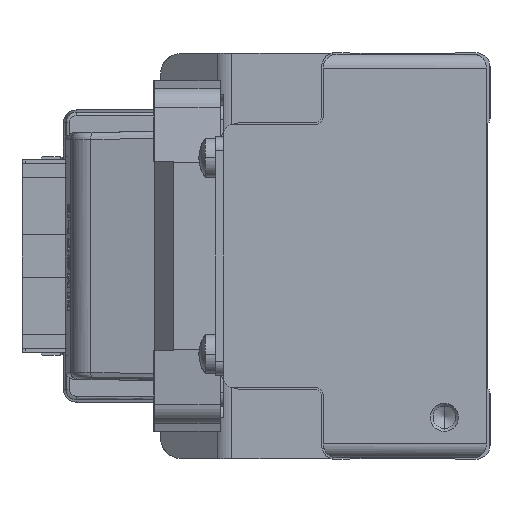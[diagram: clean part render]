
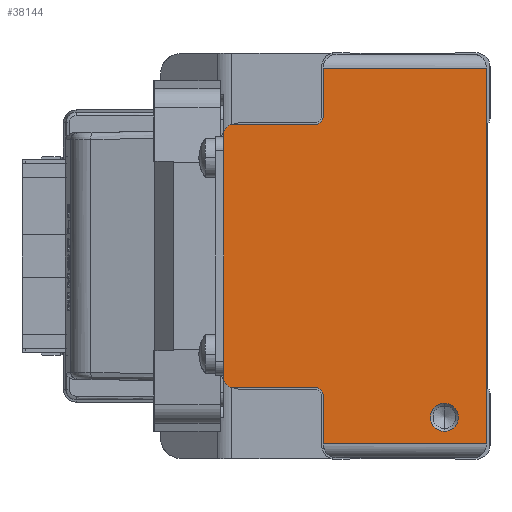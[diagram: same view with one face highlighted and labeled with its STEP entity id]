
A CAD part, left-side view. The second image highlights one B-rep face of the part: STEP entity #38144.
In plain terms, the highlighted planar face has unit normal (-1, 0, 0) as drawn and (0, 0, 1) by its records, which use the part's own axes.
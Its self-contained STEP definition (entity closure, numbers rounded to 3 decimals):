
#304 = DIRECTION ( 'NONE',  ( 1., 0., 0. ) ) ;
#404 = CIRCLE ( 'NONE', #18191, 2. ) ;
#738 = ORIENTED_EDGE ( 'NONE', *, *, #35660, .T. ) ;
#866 = DIRECTION ( 'NONE',  ( -1., 0., 0. ) ) ;
#2073 = EDGE_CURVE ( 'NONE', #8165, #43744, #28126, .T. ) ;
#2373 = EDGE_LOOP ( 'NONE', ( #11033, #39516, #33303, #14689, #42266, #30841, #24406, #9648, #738, #32640, #28398, #3628 ) ) ;
#2484 = EDGE_CURVE ( 'NONE', #28362, #5346, #43441, .T. ) ;
#3398 = DIRECTION ( 'NONE',  ( 0., 1., 0. ) ) ;
#3628 = ORIENTED_EDGE ( 'NONE', *, *, #30310, .T. ) ;
#3681 = CARTESIAN_POINT ( 'NONE',  ( 17.3, 38., 670. ) ) ;
#3977 = EDGE_CURVE ( 'NONE', #24214, #43744, #42101, .T. ) ;
#4496 = VECTOR ( 'NONE', #3398, 1000. ) ;
#4511 = FACE_BOUND ( 'NONE', #26112, .T. ) ;
#4710 = AXIS2_PLACEMENT_3D ( 'NONE', #34639, #8311, #25060 ) ;
#4853 = DIRECTION ( 'NONE',  ( 1., 0., 0. ) ) ;
#5295 = DIRECTION ( 'NONE',  ( 0., -1., 0. ) ) ;
#5346 = VERTEX_POINT ( 'NONE', #19223 ) ;
#5436 = LINE ( 'NONE', #9476, #13131 ) ;
#6149 = EDGE_CURVE ( 'NONE', #30631, #11827, #37993, .T. ) ;
#6267 = CARTESIAN_POINT ( 'NONE',  ( -21., 6.5, 670. ) ) ;
#6642 = CARTESIAN_POINT ( 'NONE',  ( 19.8, 23.8, 670. ) ) ;
#7095 = DIRECTION ( 'NONE',  ( -1., 0., 0. ) ) ;
#7326 = DIRECTION ( 'NONE',  ( 0., 0., 1. ) ) ;
#7403 = DIRECTION ( 'NONE',  ( 0., -1., 0. ) ) ;
#8165 = VERTEX_POINT ( 'NONE', #29886 ) ;
#8311 = DIRECTION ( 'NONE',  ( 0., 0., 1. ) ) ;
#9258 = ORIENTED_EDGE ( 'NONE', *, *, #2484, .T. ) ;
#9476 = CARTESIAN_POINT ( 'NONE',  ( -26.8, 24., 670. ) ) ;
#9648 = ORIENTED_EDGE ( 'NONE', *, *, #34295, .F. ) ;
#10265 = LINE ( 'NONE', #26763, #34329 ) ;
#10597 = CARTESIAN_POINT ( 'NONE',  ( -19.8, 24.8, 670. ) ) ;
#11033 = ORIENTED_EDGE ( 'NONE', *, *, #6149, .T. ) ;
#11753 = CARTESIAN_POINT ( 'NONE',  ( -19.8, 23.8, 670. ) ) ;
#11827 = VERTEX_POINT ( 'NONE', #17962 ) ;
#11926 = ORIENTED_EDGE ( 'NONE', *, *, #23326, .T. ) ;
#12878 = CARTESIAN_POINT ( 'NONE',  ( -23., 6.5, 670. ) ) ;
#13131 = VECTOR ( 'NONE', #26223, 1000. ) ;
#13230 = VECTOR ( 'NONE', #7403, 1000. ) ;
#14689 = ORIENTED_EDGE ( 'NONE', *, *, #20473, .T. ) ;
#14820 = CARTESIAN_POINT ( 'NONE',  ( 18.8, 36.5, 670. ) ) ;
#15407 = AXIS2_PLACEMENT_3D ( 'NONE', #19699, #26861, #40209 ) ;
#15561 = LINE ( 'NONE', #43171, #40759 ) ;
#15672 = EDGE_CURVE ( 'NONE', #8165, #39737, #10265, .T. ) ;
#16787 = VERTEX_POINT ( 'NONE', #27392 ) ;
#17661 = VERTEX_POINT ( 'NONE', #14820 ) ;
#17811 = LINE ( 'NONE', #31402, #27968 ) ;
#17962 = CARTESIAN_POINT ( 'NONE',  ( -18.8, 24.8, 670. ) ) ;
#18191 = AXIS2_PLACEMENT_3D ( 'NONE', #42588, #18958, #28368 ) ;
#18260 = CARTESIAN_POINT ( 'NONE',  ( -26.8, 0.5, 670. ) ) ;
#18342 = FACE_OUTER_BOUND ( 'NONE', #2373, .T. ) ;
#18958 = DIRECTION ( 'NONE',  ( 0., 0., -1. ) ) ;
#19186 = CARTESIAN_POINT ( 'NONE',  ( -18.8, 36.5, 670. ) ) ;
#19223 = CARTESIAN_POINT ( 'NONE',  ( -25., 6.5, 670. ) ) ;
#19530 = DIRECTION ( 'NONE',  ( -1., 0., 0. ) ) ;
#19699 = CARTESIAN_POINT ( 'NONE',  ( -17.3, 36.5, 670. ) ) ;
#19910 = DIRECTION ( 'NONE',  ( 0., 0., 1. ) ) ;
#20099 = CIRCLE ( 'NONE', #20852, 1. ) ;
#20473 = EDGE_CURVE ( 'NONE', #16787, #24214, #5436, .T. ) ;
#20852 = AXIS2_PLACEMENT_3D ( 'NONE', #42312, #7326, #20954 ) ;
#20954 = DIRECTION ( 'NONE',  ( 1., 0., 0. ) ) ;
#22125 = VECTOR ( 'NONE', #5295, 1000. ) ;
#22550 = VERTEX_POINT ( 'NONE', #3681 ) ;
#22881 = AXIS2_PLACEMENT_3D ( 'NONE', #23556, #30700, #33577 ) ;
#23094 = DIRECTION ( 'NONE',  ( 0., 0., -1. ) ) ;
#23326 = EDGE_CURVE ( 'NONE', #5346, #28362, #404, .T. ) ;
#23556 = CARTESIAN_POINT ( 'NONE',  ( 17.3, 36.5, 670. ) ) ;
#23791 = VECTOR ( 'NONE', #4853, 1000. ) ;
#23966 = CIRCLE ( 'NONE', #15407, 1.5 ) ;
#24214 = VERTEX_POINT ( 'NONE', #37079 ) ;
#24406 = ORIENTED_EDGE ( 'NONE', *, *, #15672, .T. ) ;
#24974 = AXIS2_PLACEMENT_3D ( 'NONE', #12878, #23094, #29576 ) ;
#25060 = DIRECTION ( 'NONE',  ( 1., 0., 0. ) ) ;
#26078 = CARTESIAN_POINT ( 'NONE',  ( 26.8, 24., 670. ) ) ;
#26112 = EDGE_LOOP ( 'NONE', ( #11926, #9258 ) ) ;
#26223 = DIRECTION ( 'NONE',  ( 0., -1., 0. ) ) ;
#26763 = CARTESIAN_POINT ( 'NONE',  ( 26.8, 23.8, 670. ) ) ;
#26861 = DIRECTION ( 'NONE',  ( 0., 0., 1. ) ) ;
#27285 = CARTESIAN_POINT ( 'NONE',  ( -18.8, 36.5, 670. ) ) ;
#27363 = VERTEX_POINT ( 'NONE', #44030 ) ;
#27392 = CARTESIAN_POINT ( 'NONE',  ( -26.8, 23.8, 670. ) ) ;
#27968 = VECTOR ( 'NONE', #866, 1000. ) ;
#28126 = LINE ( 'NONE', #26078, #22125 ) ;
#28193 = PLANE ( 'NONE',  #4710 ) ;
#28362 = VERTEX_POINT ( 'NONE', #6267 ) ;
#28368 = DIRECTION ( 'NONE',  ( -1., 0., 0. ) ) ;
#28398 = ORIENTED_EDGE ( 'NONE', *, *, #35305, .T. ) ;
#29136 = VERTEX_POINT ( 'NONE', #11753 ) ;
#29194 = CIRCLE ( 'NONE', #40601, 1. ) ;
#29576 = DIRECTION ( 'NONE',  ( -1., 0., 0. ) ) ;
#29886 = CARTESIAN_POINT ( 'NONE',  ( 26.8, 23.8, 670. ) ) ;
#30310 = EDGE_CURVE ( 'NONE', #36236, #30631, #23966, .T. ) ;
#30631 = VERTEX_POINT ( 'NONE', #19186 ) ;
#30700 = DIRECTION ( 'NONE',  ( 0., 0., 1. ) ) ;
#30841 = ORIENTED_EDGE ( 'NONE', *, *, #2073, .F. ) ;
#31402 = CARTESIAN_POINT ( 'NONE',  ( -19.8, 23.8, 670. ) ) ;
#31875 = EDGE_CURVE ( 'NONE', #29136, #11827, #29194, .T. ) ;
#32640 = ORIENTED_EDGE ( 'NONE', *, *, #33458, .T. ) ;
#33072 = LINE ( 'NONE', #33723, #4496 ) ;
#33303 = ORIENTED_EDGE ( 'NONE', *, *, #34332, .T. ) ;
#33458 = EDGE_CURVE ( 'NONE', #17661, #22550, #37899, .T. ) ;
#33577 = DIRECTION ( 'NONE',  ( 1., 0., 0. ) ) ;
#33723 = CARTESIAN_POINT ( 'NONE',  ( 18.8, 24.8, 670. ) ) ;
#34295 = EDGE_CURVE ( 'NONE', #27363, #39737, #20099, .T. ) ;
#34329 = VECTOR ( 'NONE', #7095, 1000. ) ;
#34332 = EDGE_CURVE ( 'NONE', #29136, #16787, #17811, .T. ) ;
#34639 = CARTESIAN_POINT ( 'NONE',  ( -26.8, 21.8, 670. ) ) ;
#35305 = EDGE_CURVE ( 'NONE', #22550, #36236, #15561, .T. ) ;
#35660 = EDGE_CURVE ( 'NONE', #27363, #17661, #33072, .T. ) ;
#36236 = VERTEX_POINT ( 'NONE', #41836 ) ;
#37079 = CARTESIAN_POINT ( 'NONE',  ( -26.8, 0.5, 670. ) ) ;
#37899 = CIRCLE ( 'NONE', #22881, 1.5 ) ;
#37993 = LINE ( 'NONE', #27285, #13230 ) ;
#38144 = ADVANCED_FACE ( 'NONE', ( #4511, #18342 ), #28193, .T. ) ;
#38618 = CARTESIAN_POINT ( 'NONE',  ( 26.8, 0.5, 670. ) ) ;
#39516 = ORIENTED_EDGE ( 'NONE', *, *, #31875, .F. ) ;
#39737 = VERTEX_POINT ( 'NONE', #6642 ) ;
#40209 = DIRECTION ( 'NONE',  ( 1., 0., 0. ) ) ;
#40601 = AXIS2_PLACEMENT_3D ( 'NONE', #10597, #19910, #304 ) ;
#40759 = VECTOR ( 'NONE', #19530, 1000. ) ;
#41836 = CARTESIAN_POINT ( 'NONE',  ( -17.3, 38., 670. ) ) ;
#42101 = LINE ( 'NONE', #18260, #23791 ) ;
#42266 = ORIENTED_EDGE ( 'NONE', *, *, #3977, .T. ) ;
#42312 = CARTESIAN_POINT ( 'NONE',  ( 19.8, 24.8, 670. ) ) ;
#42588 = CARTESIAN_POINT ( 'NONE',  ( -23., 6.5, 670. ) ) ;
#43171 = CARTESIAN_POINT ( 'NONE',  ( 17.3, 38., 670. ) ) ;
#43441 = CIRCLE ( 'NONE', #24974, 2. ) ;
#43744 = VERTEX_POINT ( 'NONE', #38618 ) ;
#44030 = CARTESIAN_POINT ( 'NONE',  ( 18.8, 24.8, 670. ) ) ;
